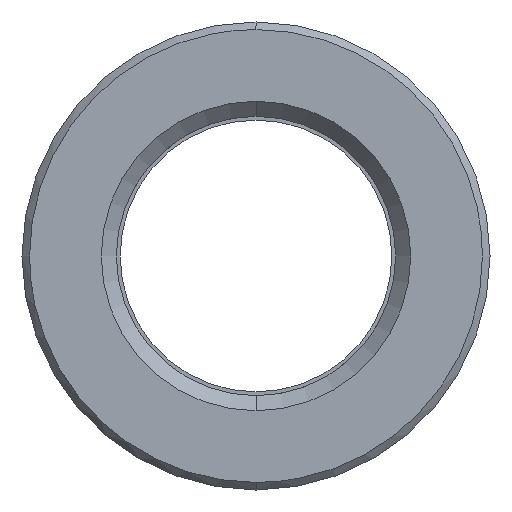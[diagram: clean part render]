
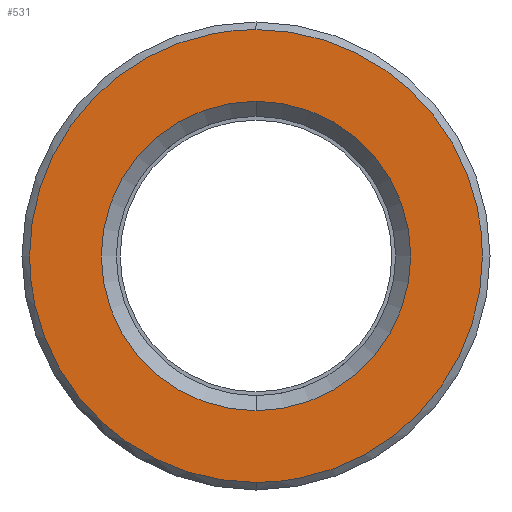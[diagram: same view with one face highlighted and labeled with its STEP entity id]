
A CAD part, left-side view. The second image highlights one B-rep face of the part: STEP entity #531.
In plain terms, the highlighted planar face has unit normal (-1, 0, 0).
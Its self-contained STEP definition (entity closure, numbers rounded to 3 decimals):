
#311=CARTESIAN_POINT('Axis2P3D Location',(0.,0.,0.)) ;
#315=CARTESIAN_POINT('Vertex',(0.,10.25,0.)) ;
#317=CARTESIAN_POINT('Vertex',(0.,0.,10.25)) ;
#320=CARTESIAN_POINT('Axis2P3D Location',(0.,0.,0.)) ;
#324=CARTESIAN_POINT('Vertex',(0.,0.,-10.25)) ;
#351=CARTESIAN_POINT('Axis2P3D Location',(0.,0.,0.)) ;
#355=CARTESIAN_POINT('Vertex',(0.,-10.25,0.)) ;
#358=CARTESIAN_POINT('Axis2P3D Location',(0.,0.,0.)) ;
#438=CARTESIAN_POINT('Axis2P3D Location',(0.,15.,0.)) ;
#444=CARTESIAN_POINT('Control Point',(0.,0.,-15.)) ;
#445=CARTESIAN_POINT('Control Point',(0.,1.359,-15.)) ;
#446=CARTESIAN_POINT('Control Point',(0.,2.718,-14.846)) ;
#447=CARTESIAN_POINT('Control Point',(0.,4.054,-14.538)) ;
#448=CARTESIAN_POINT('Control Point',(0.,6.784,-13.572)) ;
#449=CARTESIAN_POINT('Control Point',(0.,9.211,-11.985)) ;
#450=CARTESIAN_POINT('Control Point',(0.,10.379,-10.99)) ;
#451=CARTESIAN_POINT('Control Point',(0.,12.437,-8.725)) ;
#452=CARTESIAN_POINT('Control Point',(0.,13.866,-6.019)) ;
#453=CARTESIAN_POINT('Control Point',(0.,14.405,-4.583)) ;
#454=CARTESIAN_POINT('Control Point',(0.,14.829,-2.782)) ;
#455=CARTESIAN_POINT('Control Point',(0.,14.975,-0.952)) ;
#456=CARTESIAN_POINT('Control Point',(0.,14.992,-0.635)) ;
#457=CARTESIAN_POINT('Control Point',(0.,15.,-0.317)) ;
#458=CARTESIAN_POINT('Control Point',(0.,15.,0.)) ;
#459=CARTESIAN_POINT('Vertex',(0.,0.,-15.)) ;
#461=CARTESIAN_POINT('Vertex',(0.,15.,0.)) ;
#465=CARTESIAN_POINT('Control Point',(0.,-15.,0.)) ;
#466=CARTESIAN_POINT('Control Point',(0.,-15.,-1.518)) ;
#467=CARTESIAN_POINT('Control Point',(0.,-14.808,-3.036)) ;
#468=CARTESIAN_POINT('Control Point',(0.,-14.424,-4.521)) ;
#469=CARTESIAN_POINT('Control Point',(0.,-13.289,-7.363)) ;
#470=CARTESIAN_POINT('Control Point',(0.,-11.481,-9.832)) ;
#471=CARTESIAN_POINT('Control Point',(0.,-10.425,-10.945)) ;
#472=CARTESIAN_POINT('Control Point',(0.,-8.055,-12.881)) ;
#473=CARTESIAN_POINT('Control Point',(0.,-5.278,-14.165)) ;
#474=CARTESIAN_POINT('Control Point',(0.,-3.815,-14.627)) ;
#475=CARTESIAN_POINT('Control Point',(0.,-2.152,-14.927)) ;
#476=CARTESIAN_POINT('Control Point',(0.,-0.476,-14.994)) ;
#477=CARTESIAN_POINT('Control Point',(0.,-0.317,-14.998)) ;
#478=CARTESIAN_POINT('Control Point',(0.,-0.159,-15.)) ;
#479=CARTESIAN_POINT('Control Point',(0.,0.,-15.)) ;
#480=CARTESIAN_POINT('Vertex',(0.,-15.,0.)) ;
#484=CARTESIAN_POINT('Control Point',(0.,0.,15.)) ;
#485=CARTESIAN_POINT('Control Point',(0.,-1.359,15.)) ;
#486=CARTESIAN_POINT('Control Point',(0.,-2.718,14.846)) ;
#487=CARTESIAN_POINT('Control Point',(0.,-4.054,14.538)) ;
#488=CARTESIAN_POINT('Control Point',(0.,-6.784,13.572)) ;
#489=CARTESIAN_POINT('Control Point',(0.,-9.211,11.985)) ;
#490=CARTESIAN_POINT('Control Point',(0.,-10.379,10.99)) ;
#491=CARTESIAN_POINT('Control Point',(0.,-12.437,8.725)) ;
#492=CARTESIAN_POINT('Control Point',(0.,-13.866,6.019)) ;
#493=CARTESIAN_POINT('Control Point',(0.,-14.405,4.583)) ;
#494=CARTESIAN_POINT('Control Point',(0.,-14.829,2.782)) ;
#495=CARTESIAN_POINT('Control Point',(0.,-14.975,0.952)) ;
#496=CARTESIAN_POINT('Control Point',(0.,-14.992,0.635)) ;
#497=CARTESIAN_POINT('Control Point',(0.,-15.,0.317)) ;
#498=CARTESIAN_POINT('Control Point',(0.,-15.,0.)) ;
#499=CARTESIAN_POINT('Vertex',(0.,0.,15.)) ;
#503=CARTESIAN_POINT('Control Point',(0.,15.,0.)) ;
#504=CARTESIAN_POINT('Control Point',(0.,15.,1.518)) ;
#505=CARTESIAN_POINT('Control Point',(0.,14.808,3.036)) ;
#506=CARTESIAN_POINT('Control Point',(0.,14.424,4.521)) ;
#507=CARTESIAN_POINT('Control Point',(0.,13.289,7.363)) ;
#508=CARTESIAN_POINT('Control Point',(0.,11.481,9.832)) ;
#509=CARTESIAN_POINT('Control Point',(0.,10.425,10.945)) ;
#510=CARTESIAN_POINT('Control Point',(0.,8.055,12.881)) ;
#511=CARTESIAN_POINT('Control Point',(0.,5.278,14.165)) ;
#512=CARTESIAN_POINT('Control Point',(0.,3.815,14.627)) ;
#513=CARTESIAN_POINT('Control Point',(0.,2.152,14.927)) ;
#514=CARTESIAN_POINT('Control Point',(0.,0.476,14.994)) ;
#515=CARTESIAN_POINT('Control Point',(0.,0.317,14.998)) ;
#516=CARTESIAN_POINT('Control Point',(0.,0.159,15.)) ;
#517=CARTESIAN_POINT('Control Point',(0.,0.,15.)) ;
#312=DIRECTION('Axis2P3D Direction',(-1.,0.,0.)) ;
#321=DIRECTION('Axis2P3D Direction',(-1.,0.,0.)) ;
#352=DIRECTION('Axis2P3D Direction',(-1.,0.,0.)) ;
#359=DIRECTION('Axis2P3D Direction',(-1.,0.,0.)) ;
#439=DIRECTION('Axis2P3D Direction',(-1.,0.,0.)) ;
#440=DIRECTION('Axis2P3D XDirection',(0.,0.,1.)) ;
#313=AXIS2_PLACEMENT_3D('Circle Axis2P3D',#311,#312,$) ;
#322=AXIS2_PLACEMENT_3D('Circle Axis2P3D',#320,#321,$) ;
#353=AXIS2_PLACEMENT_3D('Circle Axis2P3D',#351,#352,$) ;
#360=AXIS2_PLACEMENT_3D('Circle Axis2P3D',#358,#359,$) ;
#441=AXIS2_PLACEMENT_3D('Plane Axis2P3D',#438,#439,#440) ;
#520=ORIENTED_EDGE('',*,*,#463,.F.) ;
#521=ORIENTED_EDGE('',*,*,#482,.F.) ;
#522=ORIENTED_EDGE('',*,*,#501,.F.) ;
#523=ORIENTED_EDGE('',*,*,#518,.F.) ;
#526=ORIENTED_EDGE('',*,*,#319,.T.) ;
#527=ORIENTED_EDGE('',*,*,#362,.T.) ;
#528=ORIENTED_EDGE('',*,*,#357,.T.) ;
#529=ORIENTED_EDGE('',*,*,#326,.T.) ;
#530=FACE_BOUND('',#525,.T.) ;
#531=ADVANCED_FACE('553-18X76',(#524,#530),#442,.T.) ;
#443=B_SPLINE_CURVE_WITH_KNOTS('',5,(#444,#445,#446,#447,#448,#449,#450,#451,#452,#453,#454,#455,#456,#457,#458),.UNSPECIFIED.,.F.,.U.,(6,3,3,3,6),(33.321,42.932,53.665,64.398,66.642),.UNSPECIFIED.) ;
#464=B_SPLINE_CURVE_WITH_KNOTS('',5,(#465,#466,#467,#468,#469,#470,#471,#472,#473,#474,#475,#476,#477,#478,#479),.UNSPECIFIED.,.F.,.U.,(6,3,3,3,6),(0.,10.733,21.466,32.199,33.321),.UNSPECIFIED.) ;
#483=B_SPLINE_CURVE_WITH_KNOTS('',5,(#484,#485,#486,#487,#488,#489,#490,#491,#492,#493,#494,#495,#496,#497,#498),.UNSPECIFIED.,.F.,.U.,(6,3,3,3,6),(33.321,42.932,53.665,64.398,66.642),.UNSPECIFIED.) ;
#502=B_SPLINE_CURVE_WITH_KNOTS('',5,(#503,#504,#505,#506,#507,#508,#509,#510,#511,#512,#513,#514,#515,#516,#517),.UNSPECIFIED.,.F.,.U.,(6,3,3,3,6),(0.,10.733,21.466,32.199,33.321),.UNSPECIFIED.) ;
#314=CIRCLE('generated circle',#313,10.25) ;
#323=CIRCLE('generated circle',#322,10.25) ;
#354=CIRCLE('generated circle',#353,10.25) ;
#361=CIRCLE('generated circle',#360,10.25) ;
#319=EDGE_CURVE('',#316,#318,#314,.F.) ;
#326=EDGE_CURVE('',#325,#316,#323,.F.) ;
#357=EDGE_CURVE('',#356,#325,#354,.F.) ;
#362=EDGE_CURVE('',#318,#356,#361,.F.) ;
#463=EDGE_CURVE('',#460,#462,#443,.T.) ;
#482=EDGE_CURVE('',#481,#460,#464,.T.) ;
#501=EDGE_CURVE('',#500,#481,#483,.T.) ;
#518=EDGE_CURVE('',#462,#500,#502,.T.) ;
#519=EDGE_LOOP('',(#520,#521,#522,#523)) ;
#525=EDGE_LOOP('',(#526,#527,#528,#529)) ;
#524=FACE_OUTER_BOUND('',#519,.T.) ;
#442=PLANE('Plane',#441) ;
#316=VERTEX_POINT('',#315) ;
#318=VERTEX_POINT('',#317) ;
#325=VERTEX_POINT('',#324) ;
#356=VERTEX_POINT('',#355) ;
#460=VERTEX_POINT('',#459) ;
#462=VERTEX_POINT('',#461) ;
#481=VERTEX_POINT('',#480) ;
#500=VERTEX_POINT('',#499) ;
